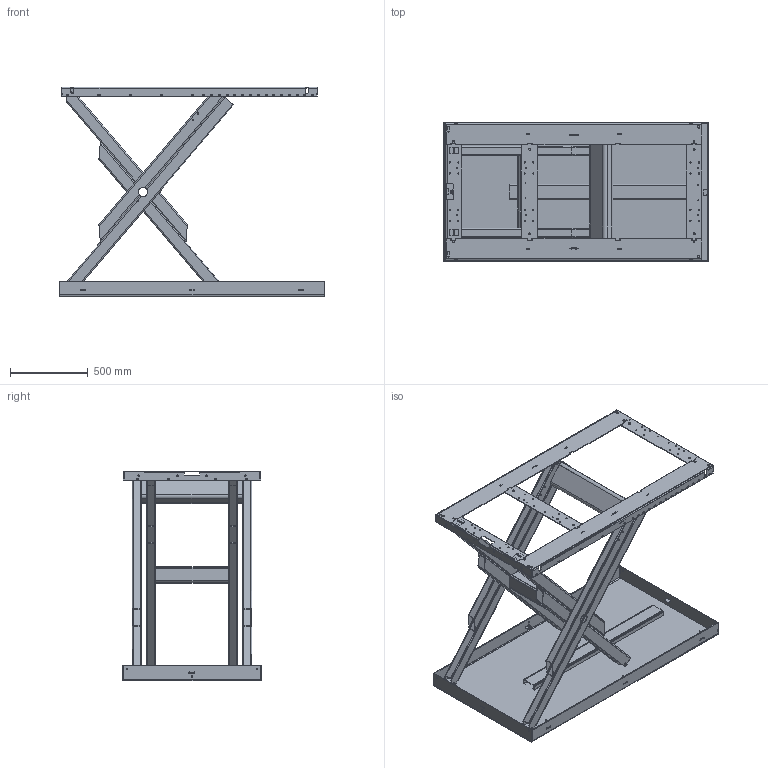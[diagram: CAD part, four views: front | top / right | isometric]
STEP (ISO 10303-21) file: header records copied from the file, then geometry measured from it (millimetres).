
FILE_DESCRIPTION(/* description */ ('Långsida'),/* implementation_level */ '2;1');
FILE_NAME(/* name */ '\\EDMOFILE01\Users$\JOHSO\Desktop\STP\t\33280_Elevated.stp',/* time_stamp */ '2016-08-11T13:56:10+02:00',/* author */ ('LEIJO'),/* organization */ (''),/* preprocessor_version */ 'ST-DEVELOPER v15.6',/* originating_system */ 'Autodesk Inventor 2015',/* authorisation */ '');
FILE_SCHEMA (('AUTOMOTIVE_DESIGN { 1 0 10303 214 3 1 1 }'));
Length unit declared in the file: millimetre
Products named in the file (26): X35871-1; X35871-4; 35871-3; 35871-2; 45259; 44870; X35872; 33184-1; 33184-2; 33184; Copy of ISO 4019 - 100x100x5 - 468; 33182; 33185-1; 33185-2; 33185; Copy of ISO 4019 - 160x80x8 - 650; 33183; 33142-1; 43239; 45387; 80131; 85955; 41333-1175; 33181; 42509; 33180_TEMP
Assembly tree (46 placements, depth 4):
  33180_TEMP
    X35872
      X35871-1
      X35871-4
      35871-3
      35871-2  x2
      45259  x2
      44870  x2
    33182
      33184  x2
        33184-1
        33184-2
      Copy of ISO 4019 - 100x100x5 - 468
    33183
      33185  x2
        33185-1
        33185-2
      Copy of ISO 4019 - 160x80x8 - 650
    33181
      33142-1
      43239  x2
      45259  x2
      45387  x8
      80131  x6
      85955
      41333-1175
    42509  x2
Bounding box: 1700 x 900 x 1350 mm (x, y, z)
Volume: 30694792.8 mm3; surface area: 12306848.9 mm2
Topology: 42 solids, 42 shells, 1738 faces, 4916 edges, 3254 vertices
Faces by surface type: cylinder 882, plane 780, cone 62, bspline 8, torus 6
Full cylindrical faces by diameter (mm): 5.55 x4, 7.4 x38, 8 x6, 10 x4, 10.481 x4, 10.5 x4, 11.63 x6, 12.5 x2, 13 x4, 13.835 x5, 14.2 x16, 15 x2, 18.8 x2, 19 x1, 22 x2, 28.1 x4
Entity records: 42354 total; most frequent: CARTESIAN_POINT 8901, DIRECTION 7072, ORIENTED_EDGE 6714, EDGE_CURVE 3357, AXIS2_PLACEMENT_3D 2550, VERTEX_POINT 2267, LINE 1972, VECTOR 1972
